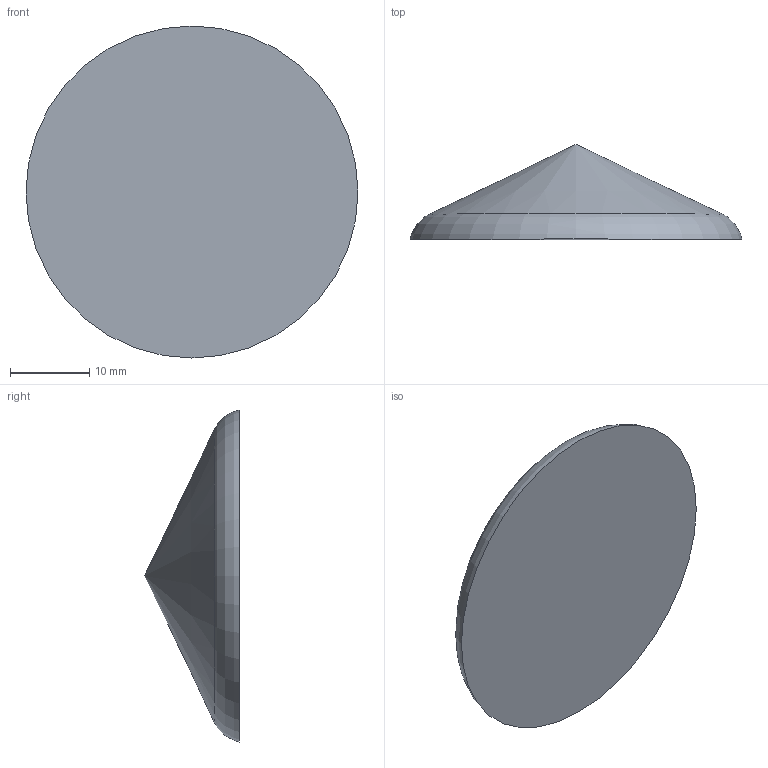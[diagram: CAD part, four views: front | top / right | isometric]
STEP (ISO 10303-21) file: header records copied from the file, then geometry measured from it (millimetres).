
FILE_DESCRIPTION(/* description */ (''),/* implementation_level */ '2;1');
FILE_NAME(/* name */ '4_fan_cap_JARVIS_airpath v1.step',/* time_stamp */ '2023-06-05T13:38:55+02:00',/* author */ (''),/* organization */ (''),/* preprocessor_version */ 'ST-DEVELOPER v19.2',/* originating_system */ 'Autodesk Translation Framework v12.6.0.85',/* authorisation */ '');
FILE_SCHEMA (('AUTOMOTIVE_DESIGN { 1 0 10303 214 3 1 1 }'));
Length unit declared in the file: millimetre
Products named in the file (3): 4_endcap_JARVIS_airpath; Airpath Gitter v3 (1); Cappe v1 v1 (1)
Assembly tree (2 placements, depth 3):
  4_endcap_JARVIS_airpath
    Airpath Gitter v3 (1)
      Cappe v1 v1 (1)
Bounding box: 42 x 12 x 42 mm (x, y, z)
Volume: 7237 mm3; surface area: 3104.7 mm2
Topology: 1 solids, 1 shells, 3 faces, 6 edges, 4 vertices
Faces by surface type: torus 1, cone 1, plane 1
Entity records: 194 total; most frequent: DIRECTION 25, CARTESIAN_POINT 17, AXIS2_PLACEMENT_3D 12, ORIENTED_EDGE 10, PRESENTATION_STYLE_ASSIGNMENT 7, SURFACE_STYLE_USAGE 7, SURFACE_SIDE_STYLE 7, SURFACE_STYLE_FILL_AREA 7
